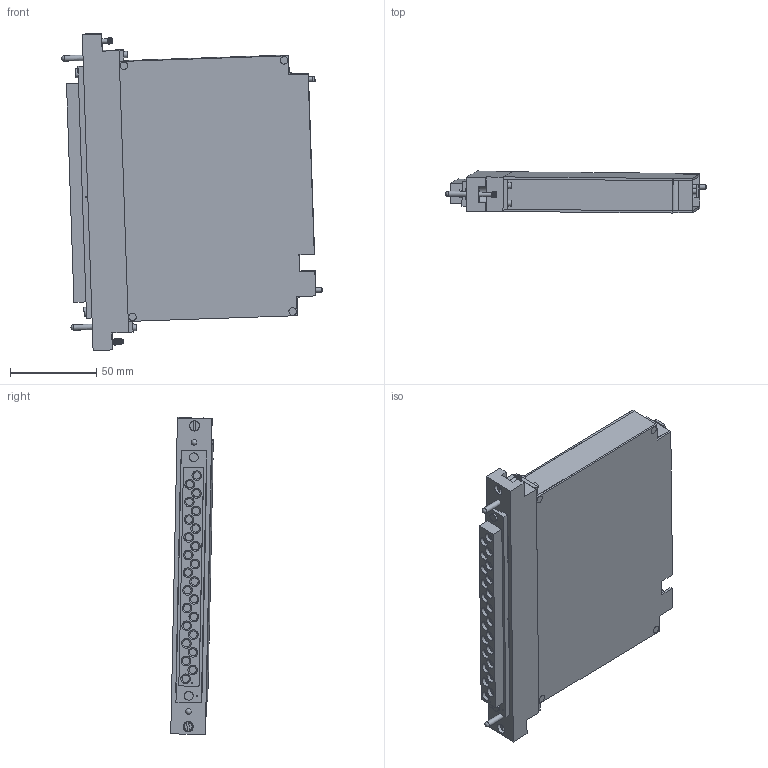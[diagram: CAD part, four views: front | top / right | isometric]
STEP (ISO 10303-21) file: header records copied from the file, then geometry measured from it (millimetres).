
FILE_DESCRIPTION((''),'2;1');
FILE_NAME('C:\old_Drawings\shrinkwrapped website .stp files\561042-STP.stp','2011-08-15T14:21:58',('GaryRobinson'),(''),'Autodesk Inventor 2011','Autodesk Inventor 2011','');
FILE_SCHEMA(('AUTOMOTIVE_DESIGN { 1 0 10303 214 1 1 1 1 }'));
Length unit declared in the file: inch
Products named in the file (1): DAK with 24 pos Coax-STP
Bounding box: 151.17 x 24.67 x 183.92 mm (x, y, z)
Surface area: 130367.5 mm2 (no closed solid volume)
Topology: 0 solids, 42 shells, 687 faces, 1429 edges, 932 vertices
Faces by surface type: plane 344, cylinder 225, cone 101, bspline 9, torus 6, sphere 2
Full cylindrical faces by diameter (mm): 0.635 x2, 1.524 x4, 2.032 x8, 2.184 x14, 2.381 x4, 2.5 x1, 2.54 x11, 2.731 x1, 2.845 x13, 2.946 x4, 3.175 x2, 3.429 x2, 3.556 x6, 3.734 x1, 3.962 x4, 4.242 x24, 4.5 x1, 4.572 x1, 4.763 x2, 4.851 x1, 5.08 x2, 5.537 x2, 5.588 x48, 5.953 x2, 6.35 x1
Entity records: 19409 total; most frequent: CARTESIAN_POINT 5024, DIRECTION 2924, ORIENTED_EDGE 2208, AXIS2_PLACEMENT_3D 1222, EDGE_CURVE 1104, EDGE_LOOP 1084, VERTEX_POINT 866, FACE_OUTER_BOUND 673
